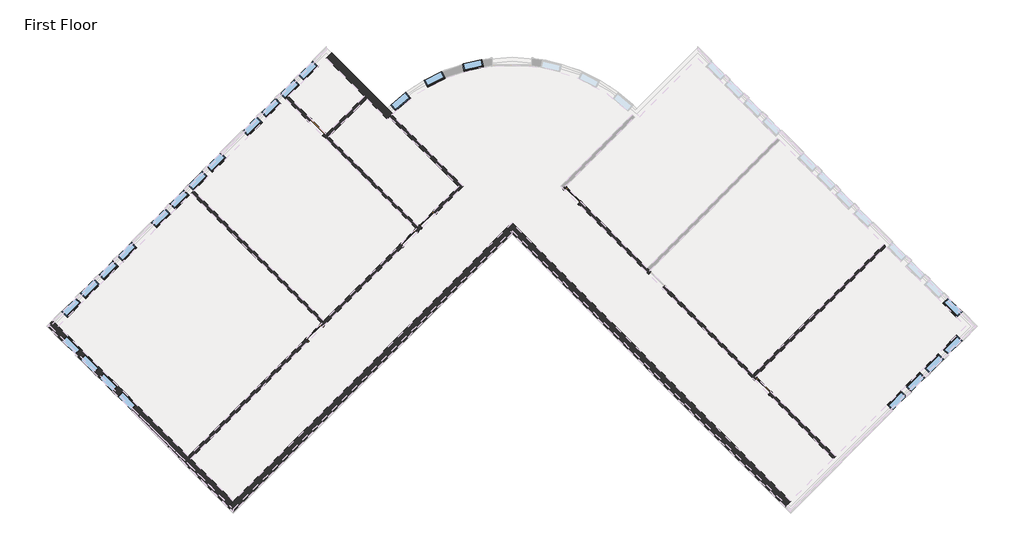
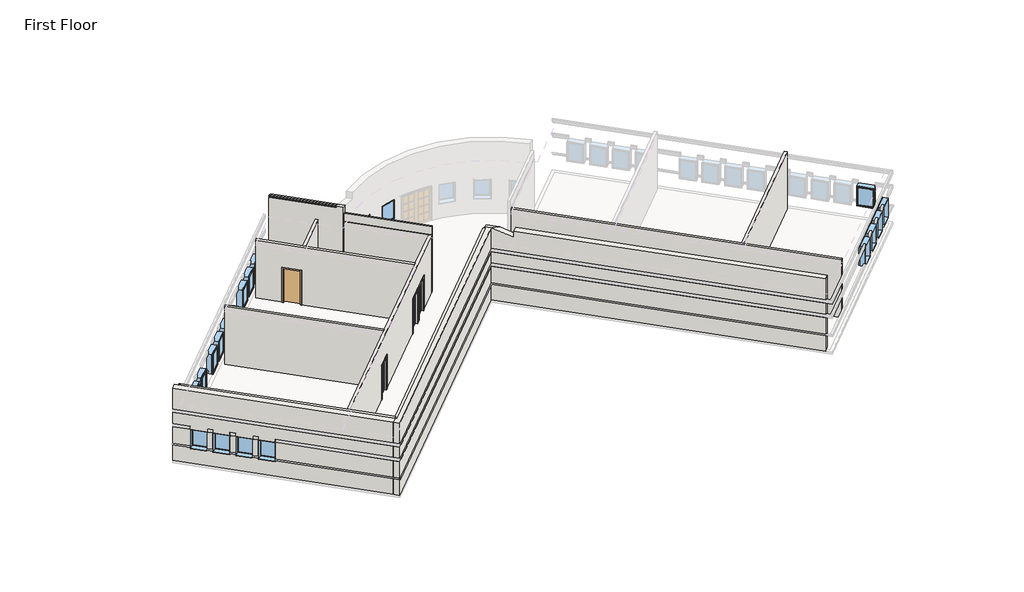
# One storey, part 1 of 4: 24 windows, 11 walls, 6 doors.
"""IFC4 building model written with IfcOpenShell, lengths in millimetres."""

from ifc_helpers import new_model, si_unit, frame, origin, origin_with_axes, place, context, project, spatial, polyline, circle_curve, ellipse_curve, outline, extrude, faceted_brep, transform, mapped, element, save
from ifc_brep_helpers import plane_surface, cylinder_surface, revolved_surface, advanced_brep
from components import door_f9494b7c, door_b81abb0e, door_5f5b55da, window_15c49d37, window_0e2fc6ce

model = new_model("IFC4")

# Units and contexts
model_context = context("Model", 3, world=origin())
ifc_project = project(units=[si_unit("LENGTHUNIT", "METRE", prefix="MILLI")], contexts=[model_context])

# Site, building, storey
site = spatial("IfcSite", under=ifc_project)
building = spatial("IfcBuilding", under=site)
storey = spatial("IfcBuildingStorey", under=building, Name="First Floor", Elevation=0.0)

# Doors
placement = place(None, origin())
door_shape = door_f9494b7c(model_context)
element("IfcDoor", 1, ObjectType="Single-Flush : 36\" x 84\"", at=placement, inside=storey, context=model_context, shape_type="MappedRepresentation", body=[
    mapped(door_shape, transform((-11920.1265343, 7875.9588464, 0.0), x_axis=(0.7071067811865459, -0.7071067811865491, 0.0), y_axis=(0.7071067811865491, 0.7071067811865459, 0.0), z_axis=(0.0, 0.0, 1.0))),
])
door_2_shape = door_b81abb0e(model_context)
element("IfcDoor", 2, ObjectType="Single-Glass 1 : 36\" x 84\"", at=placement, inside=storey, context=model_context, shape_type="MappedRepresentation", body=[
    mapped(door_2_shape, transform((-12027.7718255, -1647.4849877, 0.0), x_axis=(0.7071067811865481, 0.7071067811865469, 0.0), y_axis=(-0.7071067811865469, 0.7071067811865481, 0.0), z_axis=(0.0, 0.0, 1.0))),
])
element("IfcDoor", 3, ObjectType="Single-Glass 1 : 36\" x 84\"", at=placement, inside=storey, context=model_context, shape_type="MappedRepresentation", body=[
    mapped(door_2_shape, transform((-7643.2795567, 2737.0072811, 0.0), x_axis=(0.7071067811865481, 0.7071067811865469, 0.0), y_axis=(-0.7071067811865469, 0.7071067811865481, 0.0), z_axis=(0.0, 0.0, 1.0))),
])
door_3_shape = door_5f5b55da(model_context)
element("IfcDoor", 4, ObjectType="Single-Glass 1 : 36\" x 84\"", at=placement, inside=storey, context=model_context, shape_type="MappedRepresentation", body=[
    mapped(door_3_shape, transform((-6781.1749691, 3599.1118687, 0.0), x_axis=(-0.7071067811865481, -0.7071067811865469, 0.0), y_axis=(0.7071067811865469, -0.7071067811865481, 0.0), z_axis=(0.0, 0.0, 1.0))),
])
element("IfcDoor", 5, ObjectType="Single-Glass 1 : 36\" x 84\"", at=placement, inside=storey, context=model_context, shape_type="MappedRepresentation", body=[
    mapped(door_3_shape, transform((-66.4240191, 4710.6541283, 0.0), x_axis=(-0.7071067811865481, 0.7071067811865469, 0.0), y_axis=(-0.7071067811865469, -0.7071067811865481, 0.0), z_axis=(0.0, 0.0, 1.0))),
])
element("IfcDoor", 6, ObjectType="Single-Glass 1 : 36\" x 84\"", at=placement, inside=storey, context=model_context, shape_type="MappedRepresentation", body=[
    mapped(door_3_shape, transform((8770.3835686, -4126.1534594, 0.0), x_axis=(-0.7071067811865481, 0.7071067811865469, 0.0), y_axis=(-0.7071067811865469, -0.7071067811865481, 0.0), z_axis=(0.0, 0.0, 1.0))),
])

# Walls
element("IfcWall", 7, ObjectType="Exterior - Split Face and CMU on Mtl. Stud", at=placement, inside=storey, context=model_context, shape_type="Brep", body=[
    faceted_brep([(10063.54045, -9480.6311716, 0.0), (-2868.0283643, 3450.9376427, 0.0), (-2868.0283643, 3450.9376427, 4454.525), (-2369.6241496, 2952.533428, 4454.525), (-1756.7216693, 2339.6309478, 4165.6), (-1756.7216693, 2339.6309478, 4572.0), (10063.54045, -9480.6311716, 4572.0), (-3117.2304717, 3201.7355354, 4572.0), (-3117.2304717, 3201.7355354, 0.0), (-2868.0283643, 2952.533428, 0.0), (9814.3383427, -9729.833279, 0.0), (9814.3383427, -9729.833279, 1016.0), (-2868.0283643, 2952.533428, 1016.0), (-2933.1352212, 3017.6402849, 1016.0), (-2933.1352212, 3017.6402849, 1085.85), (-2868.0283643, 2952.533428, 1085.85), (9814.3383427, -9729.833279, 1085.85), (9814.3383427, -9729.833279, 2133.6), (-2868.0283643, 2952.533428, 2133.6), (-2933.1352212, 3017.6402849, 2133.6), (-2933.1352212, 3017.6402849, 2336.8), (-2868.0283643, 2952.533428, 2336.8), (9814.3383427, -9729.833279, 2336.8), (9814.3383427, -9729.833279, 3048.0), (-2868.0283643, 2952.533428, 3048.0), (-2933.1352212, 3017.6402849, 3048.0), (-2933.1352212, 3017.6402849, 3251.2), (-2868.0283643, 2952.533428, 3251.2), (9814.3383427, -9729.833279, 3251.2), (9814.3383427, -9729.833279, 4572.0), (-2005.9237767, 2090.4288404, 4572.0), (-2005.9237767, 2090.4288404, 4165.6), (-2868.0283643, 2952.533428, 4572.0), (-3052.1236148, 3266.8423923, 0.0), (9879.4451996, -9664.7264221, 3251.2), (9879.4451996, -9664.7264221, 3048.0), (9879.4451996, -9664.7264221, 2336.8), (9879.4451996, -9664.7264221, 2133.6), (9879.4451996, -9664.7264221, 1085.85), (9879.4451996, -9664.7264221, 1016.0), (9879.4451996, -9664.7264221, 0.0), (-2868.0283643, 3082.7471418, 1085.85), (-2868.0283643, 3082.7471418, 1016.0), (-2868.0283643, 3082.7471418, 2133.6), (-2868.0283643, 3082.7471418, 2336.8), (-2868.0283643, 3082.7471418, 3048.0), (-2868.0283643, 3082.7471418, 3251.2)], [[[0, 1, 2, 3, 4, 5, 6]], [[7, 8, 9, 10, 11, 12, 13, 14, 15, 16, 17, 18, 19, 20, 21, 22, 23, 24, 25, 26, 27, 28, 29, 30, 31, 32]], [[2, 1, 33, 8, 7]], [[0, 6, 29, 28, 34, 35, 23, 22, 36, 37, 17, 16, 38, 39, 11, 10, 40]], [[29, 6, 5, 30]], [[30, 5, 4, 31]], [[31, 4, 3, 32]], [[2, 7, 32, 3]], [[1, 0, 40, 33]], [[40, 10, 9, 8, 33]], [[14, 41, 38, 16, 15]], [[39, 42, 13, 12, 11]], [[41, 42, 39, 38]], [[42, 41, 14, 13]], [[37, 43, 19, 18, 17]], [[20, 44, 36, 22, 21]], [[44, 43, 37, 36]], [[43, 44, 20, 19]], [[35, 45, 25, 24, 23]], [[26, 46, 34, 28, 27]], [[46, 45, 35, 34]], [[45, 46, 26, 25]]]),
])
element("IfcWall", 8, ObjectType="Exterior - Split Face and CMU on Mtl. Stud", at=placement, inside=storey, context=model_context, shape_type="Brep", body=[
    faceted_brep([(-3117.2304717, 3201.7355354, 0.0), (-15799.5971786, -9480.6311716, 0.0), (-16048.799286, -9729.833279, 0.0), (-16048.799286, -9729.833279, 1016.0), (-15983.6924291, -9664.7264221, 1016.0), (-15983.6924291, -9664.7264221, 1085.85), (-16048.799286, -9729.833279, 1085.85), (-16048.799286, -9729.833279, 2133.6), (-15983.6924291, -9664.7264221, 2133.6), (-15983.6924291, -9664.7264221, 2336.8), (-16048.799286, -9729.833279, 2336.8), (-16048.799286, -9729.833279, 3048.0), (-15983.6924291, -9664.7264221, 3048.0), (-15983.6924291, -9664.7264221, 3251.2), (-16048.799286, -9729.833279, 3251.2), (-16048.799286, -9729.833279, 4572.0), (-15799.5971786, -9480.6311716, 4572.0), (-3135.1909839, 3183.7750231, 4572.0), (-3117.2304717, 3201.7355354, 4572.0), (-15799.5971786, -9979.0353863, 0.0), (-2868.0283643, 2952.533428, 0.0), (-2868.0283643, 2952.533428, 1016.0), (-15799.5971786, -9979.0353863, 1016.0), (-15799.5971786, -9979.0353863, 1085.85), (-2868.0283643, 2952.533428, 1085.85), (-2868.0283643, 2952.533428, 2133.6), (-15799.5971786, -9979.0353863, 2133.6), (-15799.5971786, -9979.0353863, 2336.8), (-2868.0283643, 2952.533428, 2336.8), (-2868.0283643, 2952.533428, 3048.0), (-15799.5971786, -9979.0353863, 3048.0), (-15799.5971786, -9979.0353863, 4572.0), (-15799.5971786, -9979.0353863, 3251.2), (-2868.0283643, 2952.533428, 3251.2), (-2868.0283643, 2952.533428, 4572.0), (-2885.9888765, 2934.5729158, 4572.0), (-15864.7040355, -9913.9285294, 0.0), (-2933.1352212, 3017.6402849, 3251.2), (-2933.1352212, 3017.6402849, 3048.0), (-2933.1352212, 3017.6402849, 2336.8), (-2933.1352212, 3017.6402849, 2133.6), (-2933.1352212, 3017.6402849, 1085.85), (-2933.1352212, 3017.6402849, 1016.0), (-2933.1352212, 3017.6402849, 0.0), (-15799.5971786, -9848.8216726, 1085.85), (-15799.5971786, -9848.8216726, 1016.0), (-15799.5971786, -9848.8216726, 2133.6), (-15799.5971786, -9848.8216726, 2336.8), (-15799.5971786, -9848.8216726, 3048.0), (-15799.5971786, -9848.8216726, 3251.2)], [[[0, 1, 2, 3, 4, 5, 6, 7, 8, 9, 10, 11, 12, 13, 14, 15, 16, 17, 18]], [[19, 20, 21, 22]], [[23, 24, 25, 26]], [[27, 28, 29, 30]], [[31, 32, 33, 34, 35]], [[2, 36, 19, 22, 3]], [[6, 23, 26, 7]], [[10, 27, 30, 11]], [[15, 14, 32, 31]], [[0, 18, 34, 33, 37, 38, 29, 28, 39, 40, 25, 24, 41, 42, 21, 20, 43]], [[2, 1, 0, 43, 36]], [[43, 20, 19, 36]], [[5, 44, 41, 24, 23, 6]], [[42, 45, 4, 3, 22, 21]], [[44, 45, 42, 41]], [[45, 44, 5, 4]], [[40, 46, 8, 7, 26, 25]], [[9, 47, 39, 28, 27, 10]], [[47, 46, 40, 39]], [[46, 47, 9, 8]], [[38, 48, 12, 11, 30, 29]], [[13, 49, 37, 33, 32, 14]], [[49, 48, 38, 37]], [[48, 49, 13, 12]], [[15, 31, 35, 34, 18, 17, 16]]]),
    faceted_brep([(-15799.5971786, -9480.6311716, 4689.475), (-3366.432579, 2952.533428, 4689.475), (-3260.200231, 3058.765776, 4639.3965909), (-15799.5971786, -9480.6311716, 4639.3965909), (-15874.9878772, -9556.0218702, 4653.9354839), (-3215.6511819, 2952.533428, 4653.9354839), (-15799.5971786, -9631.4125687, 4653.9354839)], [[[0, 1, 2, 3, 4]], [[2, 1, 5]], [[1, 0, 6, 5]], [[0, 4, 6]], [[6, 3, 2, 5]], [[3, 6, 4]]]),
])
element("IfcWall", 9, ObjectType="Exterior - Split Face and CMU on Mtl. Stud", at=placement, inside=storey, context=model_context, shape_type="Brep", body=[
    faceted_brep([(-23922.2388402, -1357.9895101, 4689.475), (-15799.5971786, -9480.6311716, 4689.475), (-15799.5971786, -9480.6311716, 4639.3965909), (-23922.2388402, -1357.9895101, 4639.3965909), (-23997.6295387, -1282.5988115, 4653.9354839), (-15874.9878772, -9556.0218702, 4653.9354839), (-24073.0202373, -1357.9895101, 4653.9354839)], [[[0, 1, 2, 3, 4]], [[2, 1, 5]], [[1, 0, 6, 5]], [[0, 4, 6]], [[6, 3, 2, 5]], [[3, 6, 4]]]),
    faceted_brep([(-15799.5971786, -9480.6311716, 0.0), (-17775.2535253, -7504.974825, 0.0), (-17885.2616628, -7394.9666875, 0.0), (-23922.2388402, -1357.9895101, 0.0), (-24171.4409475, -1108.7874027, 0.0), (-24171.4409475, -1108.7874027, 1016.0), (-24106.3340906, -1173.8942596, 1016.0), (-24106.3340906, -1173.8942596, 1085.85), (-24171.4409475, -1108.7874027, 1085.85), (-24171.4409475, -1108.7874027, 2133.6), (-24106.3340906, -1173.8942596, 2133.6), (-24106.3340906, -1173.8942596, 2336.8), (-24171.4409475, -1108.7874027, 2336.8), (-24171.4409475, -1108.7874027, 3048.0), (-24106.3340906, -1173.8942596, 3048.0), (-24106.3340906, -1173.8942596, 3251.2), (-24171.4409475, -1108.7874027, 3251.2), (-24171.4409475, -1108.7874027, 4572.0), (-23922.2388402, -1357.9895101, 4572.0), (-15799.5971786, -9480.6311716, 4572.0), (-20921.7107637, -4358.5175865, 2133.6), (-20921.7107637, -4358.5175865, 914.4), (-20275.132323, -5005.0960273, 914.4), (-20275.132323, -5005.0960273, 2133.6), (-21783.8153513, -3496.4129989, 2133.6), (-21783.8153513, -3496.4129989, 914.4), (-21137.2369106, -4142.9914396, 914.4), (-21137.2369106, -4142.9914396, 2133.6), (-22645.9199389, -2634.3084113, 2133.6), (-22645.9199389, -2634.3084113, 914.4), (-21999.3414982, -3280.886852, 914.4), (-21999.3414982, -3280.886852, 2133.6), (-23508.0245266, -1772.2038237, 2133.6), (-23508.0245266, -1772.2038237, 914.4), (-22861.4460859, -2418.7822644, 914.4), (-22861.4460859, -2418.7822644, 2133.6), (-24420.6430549, -1357.9895101, 0.0), (-16048.799286, -9729.833279, 0.0), (-16048.799286, -9729.833279, 1016.0), (-20524.3344303, -5254.2981346, 1016.0), (-20524.3344303, -5254.2981346, 914.4), (-21170.9128711, -4607.7196939, 914.4), (-21170.9128711, -4607.7196939, 1016.0), (-21386.439018, -4392.193547, 1016.0), (-21386.439018, -4392.193547, 914.4), (-22033.0174587, -3745.6151063, 914.4), (-22033.0174587, -3745.6151063, 1016.0), (-22248.5436056, -3530.0889594, 1016.0), (-22248.5436056, -3530.0889594, 914.4), (-22895.1220463, -2883.5105187, 914.4), (-22895.1220463, -2883.5105187, 1016.0), (-23110.6481932, -2667.9843718, 1016.0), (-23110.6481932, -2667.9843718, 914.4), (-23757.2266339, -2021.405931, 914.4), (-23757.2266339, -2021.405931, 1016.0), (-24420.6430549, -1357.9895101, 1016.0), (-21170.9128711, -4607.7196939, 2133.6), (-20524.3344303, -5254.2981346, 2133.6), (-20524.3344303, -5254.2981346, 2336.8), (-16048.799286, -9729.833279, 2336.8), (-16048.799286, -9729.833279, 3048.0), (-24420.6430549, -1357.9895101, 3048.0), (-24420.6430549, -1357.9895101, 2336.8), (-23757.2266339, -2021.405931, 2336.8), (-23757.2266339, -2021.405931, 2133.6), (-23110.6481932, -2667.9843718, 2133.6), (-23110.6481932, -2667.9843718, 2336.8), (-22895.1220463, -2883.5105187, 2336.8), (-22895.1220463, -2883.5105187, 2133.6), (-22248.5436056, -3530.0889594, 2133.6), (-22248.5436056, -3530.0889594, 2336.8), (-22033.0174587, -3745.6151063, 2336.8), (-22033.0174587, -3745.6151063, 2133.6), (-21386.439018, -4392.193547, 2133.6), (-21386.439018, -4392.193547, 2336.8), (-21170.9128711, -4607.7196939, 2336.8), (-20524.3344303, -5254.2981346, 1085.85), (-16048.799286, -9729.833279, 1085.85), (-16048.799286, -9729.833279, 2133.6), (-21170.9128711, -4607.7196939, 1085.85), (-21386.439018, -4392.193547, 1085.85), (-22033.0174587, -3745.6151063, 1085.85), (-22248.5436056, -3530.0889594, 1085.85), (-22895.1220463, -2883.5105187, 1085.85), (-23110.6481932, -2667.9843718, 1085.85), (-23757.2266339, -2021.405931, 1085.85), (-24420.6430549, -1357.9895101, 2133.6), (-24420.6430549, -1357.9895101, 1085.85), (-24420.6430549, -1357.9895101, 4572.0), (-24420.6430549, -1357.9895101, 3251.2), (-16048.799286, -9729.833279, 3251.2), (-16048.799286, -9729.833279, 4572.0), (-15983.6924291, -9664.7264221, 3251.2), (-15983.6924291, -9664.7264221, 3048.0), (-15983.6924291, -9664.7264221, 2336.8), (-15983.6924291, -9664.7264221, 2133.6), (-15983.6924291, -9664.7264221, 1085.85), (-15983.6924291, -9664.7264221, 1016.0), (-21105.8060142, -4542.612837, 2133.6), (-21105.8060142, -4542.612837, 1085.85), (-21105.8060142, -4542.612837, 1016.0), (-20459.2275735, -5189.1912777, 1016.0), (-20459.2275735, -5189.1912777, 1085.85), (-20459.2275735, -5189.1912777, 2133.6), (-21967.9106018, -3680.5082494, 2133.6), (-21967.9106018, -3680.5082494, 1085.85), (-21967.9106018, -3680.5082494, 1016.0), (-21321.3321611, -4327.0866901, 1016.0), (-21321.3321611, -4327.0866901, 1085.85), (-21321.3321611, -4327.0866901, 2133.6), (-22830.0151894, -2818.4036618, 2133.6), (-22830.0151894, -2818.4036618, 1085.85), (-22830.0151894, -2818.4036618, 1016.0), (-22183.4367487, -3464.9821025, 1016.0), (-22183.4367487, -3464.9821025, 1085.85), (-22183.4367487, -3464.9821025, 2133.6), (-23692.119777, -1956.2990742, 2133.6), (-23692.119777, -1956.2990742, 1085.85), (-23692.119777, -1956.2990742, 1016.0), (-23045.5413363, -2602.8775149, 1016.0), (-23045.5413363, -2602.8775149, 1085.85), (-23045.5413363, -2602.8775149, 2133.6), (-24290.4293411, -1357.9895101, 1085.85), (-24290.4293411, -1357.9895101, 1016.0), (-20459.2275735, -5189.1912777, 2133.6), (-20459.2275735, -5189.1912777, 2336.8), (-21105.8060142, -4542.612837, 2133.6), (-21105.8060142, -4542.612837, 2336.8), (-21321.3321611, -4327.0866901, 2336.8), (-21321.3321611, -4327.0866901, 2133.6), (-21967.9106018, -3680.5082494, 2133.6), (-21967.9106018, -3680.5082494, 2336.8), (-22183.4367487, -3464.9821025, 2336.8), (-22183.4367487, -3464.9821025, 2133.6), (-22830.0151894, -2818.4036618, 2133.6), (-22830.0151894, -2818.4036618, 2336.8), (-23045.5413363, -2602.8775149, 2336.8), (-23045.5413363, -2602.8775149, 2133.6), (-23692.119777, -1956.2990742, 2133.6), (-23692.119777, -1956.2990742, 2336.8), (-24290.4293411, -1357.9895101, 2133.6), (-24290.4293411, -1357.9895101, 2336.8), (-24290.4293411, -1357.9895101, 3048.0), (-24290.4293411, -1357.9895101, 3251.2)], [[[0, 1, 2, 3, 4, 5, 6, 7, 8, 9, 10, 11, 12, 13, 14, 15, 16, 17, 18, 19], [20, 21, 22, 23], [24, 25, 26, 27], [28, 29, 30, 31], [32, 33, 34, 35]], [[36, 37, 38, 39, 40, 41, 42, 43, 44, 45, 46, 47, 48, 49, 50, 51, 52, 53, 54, 55]], [[56, 57, 58, 59, 60, 61, 62, 63, 64, 65, 66, 67, 68, 69, 70, 71, 72, 73, 74, 75]], [[57, 76, 77, 78]], [[79, 56, 73, 80]], [[81, 72, 69, 82]], [[83, 68, 65, 84]], [[85, 64, 86, 87]], [[88, 89, 90, 91]], [[4, 36, 55, 5]], [[8, 87, 86, 9]], [[12, 62, 61, 13]], [[17, 16, 89, 88]], [[37, 0, 19, 91, 90, 92, 93, 60, 59, 94, 95, 78, 77, 96, 97, 38]], [[4, 3, 2, 1, 0, 37, 36]], [[21, 20, 98, 56, 79, 99, 100, 42, 41]], [[22, 21, 41, 40]], [[23, 22, 40, 39, 101, 102, 76, 57, 103]], [[20, 23, 103, 57, 56, 98]], [[25, 24, 104, 72, 81, 105, 106, 46, 45]], [[26, 25, 45, 44]], [[27, 26, 44, 43, 107, 108, 80, 73, 109]], [[24, 27, 109, 73, 72, 104]], [[29, 28, 110, 68, 83, 111, 112, 50, 49]], [[30, 29, 49, 48]], [[31, 30, 48, 47, 113, 114, 82, 69, 115]], [[28, 31, 115, 69, 68, 110]], [[33, 32, 116, 64, 85, 117, 118, 54, 53]], [[34, 33, 53, 52]], [[35, 34, 52, 51, 119, 120, 84, 65, 121]], [[32, 35, 121, 65, 64, 116]], [[102, 96, 77, 76]], [[97, 101, 39, 38]], [[96, 102, 101, 97]], [[108, 99, 79, 80]], [[100, 107, 43, 42]], [[99, 108, 107, 100]], [[114, 105, 81, 82]], [[106, 113, 47, 46]], [[105, 114, 113, 106]], [[120, 111, 83, 84]], [[112, 119, 51, 50]], [[111, 120, 119, 112]], [[122, 117, 85, 87, 8, 7]], [[118, 123, 6, 5, 55, 54]], [[117, 122, 123, 118]], [[123, 122, 7, 6]], [[124, 57, 78, 95]], [[58, 125, 94, 59]], [[57, 124, 125, 58]], [[125, 124, 95, 94]], [[126, 56, 75, 127]], [[128, 74, 73, 129]], [[56, 126, 129, 73]], [[126, 127, 128, 129]], [[127, 75, 74, 128]], [[130, 72, 71, 131]], [[132, 70, 69, 133]], [[72, 130, 133, 69]], [[130, 131, 132, 133]], [[131, 71, 70, 132]], [[134, 68, 67, 135]], [[136, 66, 65, 137]], [[68, 134, 137, 65]], [[134, 135, 136, 137]], [[135, 67, 66, 136]], [[138, 64, 63, 139]], [[64, 138, 140, 10, 9, 86]], [[138, 139, 141, 140]], [[139, 63, 62, 12, 11, 141]], [[140, 141, 11, 10]], [[93, 142, 14, 13, 61, 60]], [[15, 143, 92, 90, 89, 16]], [[143, 142, 93, 92]], [[142, 143, 15, 14]], [[19, 18, 17, 88, 91]]]),
])
element("IfcWall", 10, ObjectType="Exterior - Split Face and CMU on Mtl. Stud", at=placement, inside=storey, context=model_context, shape_type="AdvancedBrep", body=[
    advanced_brep(
    [(-8658.0122729, 8244.1131219, 0.0), (-8658.0122729, 8244.1131219, 4689.475), (-11489.0742405, 11075.1750895, 4689.475), (-11489.0742405, 11075.1750895, 4639.3965909), (-8911.6883314, 8497.7891804, 4639.3965909), (-8911.6883314, 8497.7891804, 4572.0), (-11489.0742405, 11075.1750895, 4572.0), (-11489.0742405, 11075.1750895, 0.0), (-9728.9440408, 9315.0448898, 0.0), (-9618.9359033, 9205.0367523, 0.0), (-8413.2817722, 8497.7868359, 4572.0), (-8413.2817722, 8497.7868359, 0.0), (-8662.486224, 8746.9912878, 0.0), (-11239.8721332, 11324.3771969, 0.0), (-11239.8721332, 11324.3771969, 1016.0), (-8662.486224, 8746.9912878, 1016.0), (-8597.3787742, 8681.8838379, 1016.0), (-8597.3787742, 8681.8838379, 1085.85), (-8662.486224, 8746.9912878, 1085.85), (-11239.8721332, 11324.3771969, 1085.85), (-11239.8721332, 11324.3771969, 2133.6), (-8662.486224, 8746.9912878, 2133.6), (-8597.3787742, 8681.8838379, 2133.6), (-8597.3787742, 8681.8838379, 2336.8), (-8662.486224, 8746.9912878, 2336.8), (-11239.8721332, 11324.3771969, 2336.8), (-11239.8721332, 11324.3771969, 3048.0), (-8662.486224, 8746.9912878, 3048.0), (-8597.3787742, 8681.8838379, 3048.0), (-8597.3787742, 8681.8838379, 3251.2), (-8662.486224, 8746.9912878, 3251.2), (-11239.8721332, 11324.3771969, 3251.2), (-11239.8721332, 11324.3771969, 4572.0), (-8662.486224, 8746.9912878, 4572.0), (-8557.7157352, 8350.8336041, 0.0), (-8449.0111375, 8462.1452813, 0.0), (-11304.9789901, 11259.27034, 3251.2), (-11304.9789901, 11259.27034, 3048.0), (-11304.9789901, 11259.27034, 2336.8), (-11304.9789901, 11259.27034, 2133.6), (-11304.9789901, 11259.27034, 1085.85), (-11304.9789901, 11259.27034, 1016.0), (-11413.683542, 11150.5657881, 4653.9354839), (-8836.2976328, 8573.179879, 4653.9354839), (-8662.3967205, 8616.6880705, 1085.85), (-8662.3967205, 8616.6880705, 1016.0), (-8662.3967205, 8616.6880705, 2336.8), (-8662.3967205, 8616.6880705, 2133.6), (-8662.3967205, 8616.6880705, 3251.2), (-8662.3967205, 8616.6880705, 3048.0)],
    [
        (0, 1),
        (1, 2),
        (2, 3),
        (3, 4),
        (4, 5),
        (5, 6),
        (6, 7),
        (7, 8),
        (8, 9),
        (9, 0),
        (10, 11),
        (11, 12),
        (12, 13),
        (13, 14),
        (14, 15),
        (15, 16),
        (16, 17),
        (17, 18),
        (18, 19),
        (19, 20),
        (20, 21),
        (21, 22),
        (22, 23),
        (23, 24),
        (24, 25),
        (25, 26),
        (26, 27),
        (27, 28),
        (28, 29),
        (29, 30),
        (30, 31),
        (31, 32),
        (32, 33),
        (33, 10),
        (0, 34, circle_curve(frame((-2868.0283643, 2903.1420194, 0.0), z_axis=(0.0, 0.0, -1.0), x_axis=(1.0, 0.0, 0.0)), 7877.175)),
        (34, 35, circle_curve(frame((-2868.0283643, 2903.1420194, 0.0), z_axis=(0.0, 0.0, -1.0), x_axis=(1.0, 0.0, 0.0)), 7877.175)),
        (35, 11, circle_curve(frame((-2868.0283643, 2903.1420194, 0.0), z_axis=(0.0, 0.0, -1.0), x_axis=(1.0, 0.0, 0.0)), 7877.175)),
        (10, 1, ellipse_curve(frame((-2868.0283643, 2903.1420194, 4583.6416667), z_axis=(0.2236067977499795, 0.22360679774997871, 0.9486832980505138), x_axis=(0.6708203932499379, 0.6708203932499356, -0.31622776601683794)), 8303.2715092, 7877.175)),
        (13, 7),
        (6, 32),
        (31, 36),
        (36, 37),
        (37, 26),
        (25, 38),
        (38, 39),
        (39, 20),
        (19, 40),
        (40, 41),
        (41, 14),
        (2, 42),
        (42, 3),
        (33, 43),
        (43, 42),
        (44, 45),
        (45, 41),
        (40, 44),
        (17, 44, circle_curve(frame((-2868.0283643, 2903.1420194, 1085.85), z_axis=(0.0, 0.0, 1.0), x_axis=(-0.7040995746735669, 0.7101012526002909, 0.0)), 8137.525)),
        (45, 16, circle_curve(frame((-2868.0283643, 2903.1420194, 1016.0), z_axis=(0.0, 0.0, -1.0), x_axis=(-0.7040995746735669, 0.7101012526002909, 0.0)), 8137.525)),
        (46, 47),
        (47, 39),
        (38, 46),
        (47, 22, circle_curve(frame((-2868.0283643, 2903.1420194, 2133.6), z_axis=(0.0, 0.0, -1.0), x_axis=(-0.7120553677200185, 0.70212331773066, 0.0)), 8137.525)),
        (46, 23, circle_curve(frame((-2868.0283643, 2903.1420194, 2336.8), z_axis=(0.0, 0.0, -1.0), x_axis=(-0.7120553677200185, 0.70212331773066, 0.0)), 8137.525)),
        (48, 49),
        (49, 37),
        (36, 48),
        (49, 28, circle_curve(frame((-2868.0283643, 2903.1420194, 3048.0), z_axis=(0.0, 0.0, -1.0), x_axis=(-0.7120553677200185, 0.70212331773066, 0.0)), 8137.525)),
        (48, 29, circle_curve(frame((-2868.0283643, 2903.1420194, 3251.2), z_axis=(0.0, 0.0, -1.0), x_axis=(-0.7120553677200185, 0.70212331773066, 0.0)), 8137.525)),
        (5, 33),
        (4, 43),
    ],
    [
        plane_surface(frame((-11738.2763479, 11324.3771969, 0.0), z_axis=(-0.7071067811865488, -0.7071067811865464, 0.0), x_axis=(0.7071067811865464, -0.7071067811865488, 0.0))),
        plane_surface(frame((-11489.0742405, 11573.5793042, 0.0), z_axis=(0.7071067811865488, 0.7071067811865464, 0.0), x_axis=(-0.7071067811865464, 0.7071067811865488, 0.0))),
        revolved_surface(polyline([(5009.146635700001, 2903.1420194, 0.0), (5009.146635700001, 2903.1420194, 7209.366666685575)]), (-2868.0283643, 2903.1420194, 0.0), (0.0, 0.0, -1.0)),
        plane_surface(frame((-24171.4409475, -1607.1916175, 0.0), z_axis=(-0.7071067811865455, 0.7071067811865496, 0.0), x_axis=(0.7071067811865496, 0.7071067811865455, 0.0))),
        plane_surface(frame((-1143.8191891, 2952.533428, 4165.6), z_axis=(0.2236067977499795, 0.22360679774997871, 0.9486832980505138), x_axis=(-0.7071067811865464, 0.7071067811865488, 0.0))),
        plane_surface(frame((2801.004414, 8621.5662063, 0.0), z_axis=(0.0, 0.0, -1.0), x_axis=(-0.707106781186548, -0.707106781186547, 0.0))),
        plane_surface(frame((-11489.0742405, 11443.3655905, 1016.0), z_axis=(0.7071067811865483, 0.7071067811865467, 0.0), x_axis=(0.7071067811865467, -0.7071067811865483, 0.0))),
        plane_surface(frame((-2868.0283643, 2903.1420194, 1085.85), z_axis=(0.0, 0.0, -1.0), x_axis=(-0.7040995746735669, 0.7101012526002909, 0.0))),
        plane_surface(frame((-2868.0283643, 2903.1420194, 1016.0), z_axis=(0.0, 0.0, 1.0), x_axis=(-0.7040995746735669, 0.7101012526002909, 0.0))),
        cylinder_surface(frame((-2868.0283643, 2903.1420194, 1016.0), z_axis=(0.0, 0.0, -1.0), x_axis=(-0.7040995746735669, 0.7101012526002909, 0.0)), 8137.525),
        plane_surface(frame((-11489.0742405, 11443.3655905, 2133.6), z_axis=(0.7071067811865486, 0.7071067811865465, 0.0), x_axis=(0.7071067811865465, -0.7071067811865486, 0.0))),
        plane_surface(frame((-2868.0283643, 2903.1420194, 2133.6), z_axis=(0.0, 0.0, 1.0), x_axis=(-0.7120553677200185, 0.70212331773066, 0.0))),
        cylinder_surface(frame((-2868.0283643, 2903.1420194, 2133.6), z_axis=(0.0, 0.0, -1.0), x_axis=(-0.7120553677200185, 0.70212331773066, 0.0)), 8137.525),
        plane_surface(frame((-2868.0283643, 2903.1420194, 2336.8), z_axis=(0.0, 0.0, -1.0), x_axis=(-0.7120553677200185, 0.70212331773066, 0.0))),
        plane_surface(frame((-11489.0742405, 11443.3655905, 3048.0), z_axis=(0.7071067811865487, 0.7071067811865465, 0.0), x_axis=(0.7071067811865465, -0.7071067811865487, 0.0))),
        plane_surface(frame((-2868.0283643, 2903.1420194, 3048.0), z_axis=(0.0, 0.0, 1.0), x_axis=(-0.7120553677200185, 0.70212331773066, 0.0))),
        cylinder_surface(frame((-2868.0283643, 2903.1420194, 3048.0), z_axis=(0.0, 0.0, -1.0), x_axis=(-0.7120553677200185, 0.70212331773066, 0.0)), 8137.525),
        plane_surface(frame((-2868.0283643, 2903.1420194, 3251.2), z_axis=(0.0, 0.0, -1.0), x_axis=(-0.7120553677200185, 0.70212331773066, 0.0))),
        plane_surface(frame((-24438.6035671, -1340.0289979, 4572.0), z_axis=(0.0, 0.0, 1.0), x_axis=(0.7071067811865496, 0.7071067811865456, 0.0))),
        plane_surface(frame((-8662.486224, 8746.9912878, 4185.7445793), z_axis=(-0.7071067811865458, 0.7071067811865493, 0.0), x_axis=(0.7071067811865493, 0.7071067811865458, 0.0))),
        plane_surface(frame((-11489.0742405, 11034.763937, 4635.5), z_axis=(0.0955394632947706, 0.09553946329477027, -0.9908301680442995), x_axis=(0.7071067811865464, -0.7071067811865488, 0.0))),
    ],
    [
        (0, [[1, 2, 3, 4, 5, 6, 7, 8, 9, 10]]),
        (1, [[11, 12, 13, 14, 15, 16, 17, 18, 19, 20, 21, 22, 23, 24, 25, 26, 27, 28, 29, 30, 31, 32, 33, 34]]),
        (2, [[35, 36, 37, -11, 38, -1]]),
        (3, [[39, -7, 40, -32, 41, 42, 43, -26, 44, 45, 46, -20, 47, 48, 49, -14]]),
        (3, [[-3, 50, 51]]),
        (4, [[-2, -38, -34, 52, 53, -50]]),
        (5, [[-37, -36, -35, -10, -9, -8, -39, -13, -12]]),
        (6, [[54, 55, -48, 56]]),
        (7, [[57, -56, -47, -19, -18]]),
        (8, [[-55, 58, -16, -15, -49]]),
        (9, [[-54, -57, -17, -58]]),
        (10, [[59, 60, -45, 61]]),
        (11, [[-60, 62, -22, -21, -46]]),
        (12, [[-59, 63, -23, -62]]),
        (13, [[-63, -61, -44, -25, -24]]),
        (14, [[64, 65, -42, 66]]),
        (15, [[-65, 67, -28, -27, -43]]),
        (16, [[-64, 68, -29, -67]]),
        (17, [[-68, -66, -41, -31, -30]]),
        (18, [[69, -33, -40, -6]]),
        (19, [[70, -52, -69, -5]]),
        (20, [[-70, -4, -51, -53]]),
    ],
),
])
element("IfcWall", 11, ObjectType="Interior - 6 1/8\" Partition (2-hr)", at=placement, inside=storey, context=model_context, shape_type="Brep", body=[
    faceted_brep([(-7264.9862676, 3005.2924327, 0.0), (-7049.4601207, 3220.8185796, 0.0), (-7049.4601207, 3220.8185796, 2133.6), (-6402.88168, 3867.3970204, 2133.6), (-6402.88168, 3867.3970204, 0.0), (-5238.5804157, 5031.6982846, 0.0), (-5238.5804157, 5031.6982846, 3657.6), (-17775.2535253, -7504.974825, 3657.6), (-17775.2535253, -7504.974825, 0.0), (-12296.0569771, -2025.7782768, 0.0), (-12296.0569771, -2025.7782768, 2133.6), (-11649.4785364, -1379.1998361, 2133.6), (-11649.4785364, -1379.1998361, 0.0), (-7911.5647083, 2358.713992, 0.0), (-7911.5647083, 2358.713992, 2133.6), (-7264.9862676, 3005.2924327, 2133.6), (-7159.4682582, 3330.8267171, 2133.6), (-7159.4682582, 3330.8267171, 0.0), (-7212.2272629, 3278.0677124, 0.0), (-7322.2354004, 3168.0595749, 0.0), (-7374.9944051, 3115.3005702, 0.0), (-7374.9944051, 3115.3005702, 2133.6), (-8021.5728458, 2468.7221295, 2133.6), (-8021.5728458, 2468.7221295, 0.0), (-11596.7195317, -1106.4245564, 0.0), (-11706.7276692, -1216.4326939, 0.0), (-11759.4866739, -1269.1916986, 0.0), (-11759.4866739, -1269.1916986, 2133.6), (-12406.0651146, -1915.7701393, 2133.6), (-12406.0651146, -1915.7701393, 0.0), (-17885.2616628, -7394.9666875, 0.0), (-17885.2616628, -7394.9666875, 3657.6), (-11706.7276692, -1216.4326939, 3657.6), (-11596.7195317, -1106.4245564, 3657.6), (-7322.2354004, 3168.0595749, 3657.6), (-7212.2272629, 3278.0677124, 3657.6), (-5348.5885532, 5141.7064221, 3657.6), (-5348.5885532, 5141.7064221, 0.0), (-6512.8898174, 3977.4051578, 0.0), (-6512.8898174, 3977.4051578, 2133.6)], [[[0, 1, 2, 3, 4, 5, 6, 7, 8, 9, 10, 11, 12, 13, 14, 15]], [[16, 17, 18, 19, 20, 21, 22, 23, 24, 25, 26, 27, 28, 29, 30, 31, 32, 33, 34, 35, 36, 37, 38, 39]], [[20, 19, 18, 17, 1, 0]], [[9, 8, 30, 29]], [[13, 12, 26, 25, 24, 23]], [[38, 37, 5, 4]], [[7, 6, 36, 35, 34, 33, 32, 31]], [[8, 7, 31, 30]], [[6, 5, 37, 36]], [[27, 26, 12, 11]], [[28, 27, 11, 10]], [[29, 28, 10, 9]], [[21, 20, 0, 15]], [[22, 21, 15, 14]], [[23, 22, 14, 13]], [[2, 1, 17, 16]], [[3, 2, 16, 39]], [[4, 3, 39, 38]]]),
])
element("IfcWall", 12, ObjectType="Interior - 6 1/8\" Partition (2-hr)", at=placement, inside=storey, context=model_context, shape_type="Brep", body=[
    faceted_brep([(-7212.2272629, 3278.0677124, 0.0), (-11379.066103, 7444.9065526, 0.0), (-11489.0742405, 7554.9146901, 0.0), (-11541.8332452, 7607.6736948, 0.0), (-11541.8332452, 7607.6736948, 2133.6), (-12188.411686, 8254.2521355, 2133.6), (-12188.411686, 8254.2521355, 0.0), (-13249.2044403, 9315.0448898, 0.0), (-13249.2044403, 9315.0448898, 3657.6), (-11489.0742405, 7554.9146901, 3657.6), (-11379.066103, 7444.9065526, 3657.6), (-7212.2272629, 3278.0677124, 3657.6), (-11651.8413827, 7497.6655573, 2133.6), (-11651.8413827, 7497.6655573, 0.0), (-7322.2354004, 3168.0595749, 0.0), (-7322.2354004, 3168.0595749, 3657.6), (-13359.2125777, 9205.0367523, 3657.6), (-13359.2125777, 9205.0367523, 0.0), (-12298.4198234, 8144.243998, 0.0), (-12298.4198234, 8144.243998, 2133.6)], [[[0, 1, 2, 3, 4, 5, 6, 7, 8, 9, 10, 11]], [[12, 13, 14, 15, 16, 17, 18, 19]], [[14, 13, 3, 2, 1, 0]], [[18, 17, 7, 6]], [[11, 10, 9, 8, 16, 15]], [[8, 7, 17, 16]], [[0, 11, 15, 14]], [[4, 3, 13, 12]], [[5, 4, 12, 19]], [[6, 5, 19, 18]]]),
])
element("IfcWall", 13, ObjectType="Interior - 6 1/8\" Partition (2-hr)", at=placement, inside=storey, context=model_context, shape_type="AdvancedBrep", body=[
    advanced_brep(
    [(-5128.5722782, 5141.7064221, 0.0), (-8449.0111375, 8462.1452813, 0.0), (-8449.0111375, 8462.1452813, 4165.6), (-5128.5722782, 5141.7064221, 4165.6), (-5238.5804157, 5031.6982846, 0.0), (-5238.5804157, 5031.6982846, 3657.6), (-5348.5885532, 5141.7064221, 3657.6), (-8557.7157352, 8350.8336041, 3657.6), (-8557.7157352, 8350.8336041, 0.0), (-5348.5885532, 5141.7064221, 0.0), (-5217.487872, 5052.7908283, 4165.6), (-5217.487872, 5052.7908283, 3657.6), (-8537.0415337, 8372.3444901, 3657.6), (-8537.0415337, 8372.3444901, 4165.6)],
    [
        (0, 1),
        (1, 2),
        (2, 3),
        (3, 0),
        (4, 5),
        (5, 6),
        (6, 7),
        (7, 8),
        (8, 9),
        (9, 4),
        (3, 10),
        (10, 11),
        (11, 5),
        (4, 0),
        (1, 8, circle_curve(frame((-2868.0283643, 2903.1420194, 0.0), z_axis=(0.0, 0.0, 1.0), x_axis=(1.0, 0.0, 0.0)), 7877.175)),
        (7, 12, circle_curve(frame((-2868.0283643, 2903.1420194, 3657.6), z_axis=(0.0, 0.0, -1.0), x_axis=(1.0, 0.0, 0.0)), 7877.175)),
        (12, 13),
        (13, 2, circle_curve(frame((-2868.0283643, 2903.1420194, 4165.6), z_axis=(0.0, 0.0, -1.0), x_axis=(1.0, 0.0, 0.0)), 7877.175)),
        (11, 12),
        (10, 13),
    ],
    [
        plane_surface(frame((-5183.576347, 5196.7104908, 0.0), z_axis=(0.7071067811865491, 0.7071067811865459, 0.0), x_axis=(-0.7071067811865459, 0.7071067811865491, 0.0))),
        plane_surface(frame((-5293.5844845, 5086.7023533, 0.0), z_axis=(-0.7071067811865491, -0.7071067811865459, 0.0), x_axis=(0.7071067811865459, -0.7071067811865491, 0.0))),
        plane_surface(frame((-17899.854579, -7629.5758786, 0.0), z_axis=(0.7071067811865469, -0.7071067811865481, 0.0), x_axis=(0.7071067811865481, 0.7071067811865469, 0.0))),
        cylinder_surface(frame((-2868.0283643, 2903.1420194, 0.0), z_axis=(0.0, 0.0, -1.0), x_axis=(1.0, 0.0, 0.0)), 7877.175),
        plane_surface(frame((-8573.2406241, 8586.374768, 3657.6), z_axis=(0.0, 0.0, 1.0), x_axis=(-0.707106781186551, -0.7071067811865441, 0.0))),
        plane_surface(frame((-9648.4972858, 9483.8002421, 4572.0), z_axis=(-0.7071067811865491, -0.7071067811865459, 0.0), x_axis=(0.7071067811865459, -0.7071067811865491, 0.0))),
        plane_surface(frame((-2868.0283643, 2903.1420194, 4165.6), z_axis=(0.0, 0.0, 1.0), x_axis=(1.0, 0.0, 0.0))),
        plane_surface(frame((2801.004414, 8621.5662063, 0.0), z_axis=(0.0, 0.0, -1.0), x_axis=(-0.707106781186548, -0.707106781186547, 0.0))),
    ],
    [
        (0, [[1, 2, 3, 4]]),
        (1, [[5, 6, 7, 8, 9, 10]]),
        (2, [[-4, 11, 12, 13, -5, 14]]),
        (3, [[-2, 15, -8, 16, 17, 18]]),
        (4, [[-16, -7, -6, -13, 19]]),
        (5, [[-19, -12, 20, -17]]),
        (6, [[-3, -18, -20, -11]]),
        (7, [[-1, -14, -10, -9, -15]]),
    ],
),
])
element("IfcWall", 14, ObjectType="Interior - 6 1/8\" Partition (2-hr)", at=placement, inside=storey, context=model_context, shape_type="SweptSolid", body=[
    extrude(outline(polyline([(-11489.0742405, 7554.9146901), (-9728.9440408, 9315.0448898), (-9618.9359033, 9205.0367523), (-11379.066103, 7444.9065526), (-11489.0742405, 7554.9146901)])), origin_with_axes(), (0.0, 0.0, 1.0), 3657.6),
])
element("IfcWall", 15, ObjectType="Interior - 6 1/8\" Partition (2-hr)", at=placement, inside=storey, context=model_context, shape_type="SweptSolid", body=[
    extrude(outline(polyline([(-17633.6967091, 4930.552621), (-11596.7195317, -1106.4245564), (-11706.7276692, -1216.4326939), (-17743.7048466, 4820.5444835), (-17633.6967091, 4930.552621)])), origin_with_axes(), (0.0, 0.0, 1.0), 3657.6),
])
element("IfcWall", 16, ObjectType="Interior - 6 1/8\" Partition (2-hr)", at=placement, inside=storey, context=model_context, shape_type="Brep", body=[
    faceted_brep([(8502.098417, -3747.8601703, 2133.6), (8502.098417, -3747.8601703, 0.0), (8449.3394123, -3695.1011656, 0.0), (8339.3312748, -3585.0930281, 0.0), (4225.2514393, 528.9868073, 0.0), (4225.2514393, 528.9868073, 2133.6), (3578.6729986, 1175.5652481, 2133.6), (3578.6729986, 1175.5652481, 0.0), (3525.9139939, 1228.3242528, 0.0), (3415.9058564, 1338.3323903, 0.0), (311.86927, 4442.3689766, 0.0), (311.86927, 4442.3689766, 2133.6), (-334.7091707, 5088.9474174, 2133.6), (-334.7091707, 5088.9474174, 0.0), (-387.4681754, 5141.7064221, 0.0), (-387.4681754, 5141.7064221, 3657.6), (3415.9058564, 1338.3323903, 3657.6), (3525.9139939, 1228.3242528, 3657.6), (8339.3312748, -3585.0930281, 3657.6), (8449.3394123, -3695.1011656, 3657.6), (12149.2049342, -7394.9666875, 3657.6), (12149.2049342, -7394.9666875, 0.0), (9148.6768577, -4394.438611, 0.0), (9148.6768577, -4394.438611, 2133.6), (4115.2433018, 418.9786699, 0.0), (8392.0902795, -3857.8683078, 0.0), (8392.0902795, -3857.8683078, 2133.6), (9038.6687202, -4504.4467485, 2133.6), (9038.6687202, -4504.4467485, 0.0), (12039.1967967, -7504.974825, 0.0), (12039.1967967, -7504.974825, 3657.6), (-497.4763129, 5031.6982846, 3657.6), (-497.4763129, 5031.6982846, 0.0), (-444.7173082, 4978.9392799, 0.0), (-444.7173082, 4978.9392799, 2133.6), (201.8611325, 4332.3608392, 2133.6), (201.8611325, 4332.3608392, 0.0), (3468.6648611, 1065.5571106, 0.0), (3468.6648611, 1065.5571106, 2133.6), (4115.2433018, 418.9786699, 2133.6)], [[[0, 1, 2, 3, 4, 5, 6, 7, 8, 9, 10, 11, 12, 13, 14, 15, 16, 17, 18, 19, 20, 21, 22, 23]], [[24, 25, 26, 27, 28, 29, 30, 31, 32, 33, 34, 35, 36, 37, 38, 39]], [[14, 13, 33, 32]], [[10, 9, 8, 7, 37, 36]], [[4, 3, 2, 1, 25, 24]], [[22, 21, 29, 28]], [[20, 19, 18, 17, 16, 15, 31, 30]], [[15, 14, 32, 31]], [[21, 20, 30, 29]], [[34, 33, 13, 12]], [[35, 34, 12, 11]], [[36, 35, 11, 10]], [[38, 37, 7, 6]], [[39, 38, 6, 5]], [[24, 39, 5, 4]], [[26, 25, 1, 0]], [[27, 26, 0, 23]], [[28, 27, 23, 22]]]),
])
element("IfcWall", 17, ObjectType="Interior - 6 1/8\" Partition (2-hr)", at=placement, inside=storey, context=model_context, shape_type="SweptSolid", body=[
    extrude(outline(polyline([(8339.3312748, -3585.0930281), (14376.3084522, 2451.8841493), (14486.3165897, 2341.8760118), (8449.3394123, -3695.1011656), (8339.3312748, -3585.0930281)])), origin_with_axes(), (0.0, 0.0, 1.0), 3657.6),
])

# Windows
window_shape = window_15c49d37(model_context)
element("IfcWindow", 18, ObjectType="Fixed : 36\" x 48\"", at=placement, inside=storey, context=model_context, shape_type="MappedRepresentation", body=[
    mapped(window_shape, transform((-23336.2771283, -522.8256908, 0.0), x_axis=(-0.7071067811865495, -0.7071067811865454, 0.0), y_axis=(0.7071067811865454, -0.7071067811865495, 0.0), z_axis=(0.0, 0.0, 1.0))),
])
element("IfcWindow", 19, ObjectType="Fixed : 36\" x 48\"", at=placement, inside=storey, context=model_context, shape_type="MappedRepresentation", body=[
    mapped(window_shape, transform((-8066.2237793, 9037.6928325, 0.0), x_axis=(-0.7659856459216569, -0.6428576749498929, 0.0), y_axis=(0.6428576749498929, -0.7659856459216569, 0.0), z_axis=(0.0, 0.0, 1.0))),
])
element("IfcWindow", 20, ObjectType="Fixed : 36\" x 48\"", at=placement, inside=storey, context=model_context, shape_type="MappedRepresentation", body=[
    mapped(window_shape, transform((-22474.1725406, 339.2788968, 0.0), x_axis=(-0.7071067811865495, -0.7071067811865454, 0.0), y_axis=(0.7071067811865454, -0.7071067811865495, 0.0), z_axis=(0.0, 0.0, 1.0))),
])
element("IfcWindow", 21, ObjectType="Fixed : 36\" x 48\"", at=placement, inside=storey, context=model_context, shape_type="MappedRepresentation", body=[
    mapped(window_shape, transform((-21612.067953, 1201.3834844, 0.0), x_axis=(-0.7071067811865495, -0.7071067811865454, 0.0), y_axis=(0.7071067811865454, -0.7071067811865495, 0.0), z_axis=(0.0, 0.0, 1.0))),
])
element("IfcWindow", 22, ObjectType="Fixed : 36\" x 48\"", at=placement, inside=storey, context=model_context, shape_type="MappedRepresentation", body=[
    mapped(window_shape, transform((-20749.9633654, 2063.488072, 0.0), x_axis=(-0.7071067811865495, -0.7071067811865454, 0.0), y_axis=(0.7071067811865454, -0.7071067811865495, 0.0), z_axis=(0.0, 0.0, 1.0))),
])
element("IfcWindow", 23, ObjectType="Fixed : 36\" x 48\"", at=placement, inside=storey, context=model_context, shape_type="MappedRepresentation", body=[
    mapped(window_shape, transform((-4714.6266038, 10728.998151, 0.0), x_axis=(-0.9743494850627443, -0.2250401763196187, 0.0), y_axis=(0.2250401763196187, -0.9743494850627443, 0.0), z_axis=(0.0, 0.0, 1.0))),
])
element("IfcWindow", 24, ObjectType="Fixed : 36\" x 48\"", at=placement, inside=storey, context=model_context, shape_type="MappedRepresentation", body=[
    mapped(window_shape, transform((-6490.5147795, 10081.6893252, 0.0), x_axis=(-0.8948935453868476, -0.4462796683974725, 0.0), y_axis=(0.4462796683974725, -0.8948935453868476, 0.0), z_axis=(0.0, 0.0, 1.0))),
])
element("IfcWindow", 25, ObjectType="Fixed : 36\" x 48\"", at=placement, inside=storey, context=model_context, shape_type="MappedRepresentation", body=[
    mapped(window_shape, transform((-19187.8702245, 3625.5812129, 0.0), x_axis=(-0.7071067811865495, -0.7071067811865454, 0.0), y_axis=(0.7071067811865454, -0.7071067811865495, 0.0), z_axis=(0.0, 0.0, 1.0))),
])
element("IfcWindow", 26, ObjectType="Fixed : 36\" x 48\"", at=placement, inside=storey, context=model_context, shape_type="MappedRepresentation", body=[
    mapped(window_shape, transform((-18325.7656368, 4487.6858006, 0.0), x_axis=(-0.7071067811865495, -0.7071067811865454, 0.0), y_axis=(0.7071067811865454, -0.7071067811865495, 0.0), z_axis=(0.0, 0.0, 1.0))),
])
element("IfcWindow", 27, ObjectType="Fixed : 36\" x 48\"", at=placement, inside=storey, context=model_context, shape_type="MappedRepresentation", body=[
    mapped(window_shape, transform((-17463.6610492, 5349.7903882, 0.0), x_axis=(-0.7071067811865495, -0.7071067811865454, 0.0), y_axis=(0.7071067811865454, -0.7071067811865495, 0.0), z_axis=(0.0, 0.0, 1.0))),
])
element("IfcWindow", 28, ObjectType="Fixed : 36\" x 48\"", at=placement, inside=storey, context=model_context, shape_type="MappedRepresentation", body=[
    mapped(window_shape, transform((-16601.5564616, 6211.8949758, 0.0), x_axis=(-0.7071067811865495, -0.7071067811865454, 0.0), y_axis=(0.7071067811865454, -0.7071067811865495, 0.0), z_axis=(0.0, 0.0, 1.0))),
])
element("IfcWindow", 29, ObjectType="Fixed : 36\" x 48\"", at=placement, inside=storey, context=model_context, shape_type="MappedRepresentation", body=[
    mapped(window_shape, transform((17600.2203996, -2193.1533294, 0.0), x_axis=(0.7071067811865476, 0.7071067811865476, 0.0), y_axis=(-0.7071067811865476, 0.7071067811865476, 0.0), z_axis=(0.0, 0.0, 1.0))),
])
element("IfcWindow", 30, ObjectType="Fixed : 36\" x 48\"", at=placement, inside=storey, context=model_context, shape_type="MappedRepresentation", body=[
    mapped(window_shape, transform((16738.115812, -3055.257917, 0.0), x_axis=(0.7071067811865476, 0.7071067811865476, 0.0), y_axis=(-0.7071067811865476, 0.7071067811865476, 0.0), z_axis=(0.0, 0.0, 1.0))),
])
element("IfcWindow", 31, ObjectType="Fixed : 36\" x 48\"", at=placement, inside=storey, context=model_context, shape_type="MappedRepresentation", body=[
    mapped(window_shape, transform((15876.0112244, -3917.3625046, 0.0), x_axis=(0.7071067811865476, 0.7071067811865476, 0.0), y_axis=(-0.7071067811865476, 0.7071067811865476, 0.0), z_axis=(0.0, 0.0, 1.0))),
])
element("IfcWindow", 32, ObjectType="Fixed : 36\" x 48\"", at=placement, inside=storey, context=model_context, shape_type="MappedRepresentation", body=[
    mapped(window_shape, transform((15013.9066368, -4779.4670922, 0.0), x_axis=(0.7071067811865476, 0.7071067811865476, 0.0), y_axis=(-0.7071067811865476, 0.7071067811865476, 0.0), z_axis=(0.0, 0.0, 1.0))),
])
window_2_shape = window_0e2fc6ce(model_context)
element("IfcWindow", 33, ObjectType="Fixed : 36\" x 48\"", at=placement, inside=storey, context=model_context, shape_type="MappedRepresentation", body=[
    mapped(window_2_shape, transform((-12290.3265348, 10523.1249026, 0.0), x_axis=(0.7071067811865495, 0.7071067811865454, 0.0), y_axis=(-0.7071067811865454, 0.7071067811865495, 0.0), z_axis=(0.0, 0.0, 1.0))),
])
element("IfcWindow", 34, ObjectType="Fixed : 36\" x 48\"", at=placement, inside=storey, context=model_context, shape_type="MappedRepresentation", body=[
    mapped(window_2_shape, transform((-13152.4311224, 9661.020315, 0.0), x_axis=(0.7071067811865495, 0.7071067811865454, 0.0), y_axis=(-0.7071067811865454, 0.7071067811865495, 0.0), z_axis=(0.0, 0.0, 1.0))),
])
element("IfcWindow", 35, ObjectType="Fixed : 36\" x 48\"", at=placement, inside=storey, context=model_context, shape_type="MappedRepresentation", body=[
    mapped(window_2_shape, transform((-14014.53571, 8798.9157274, 0.0), x_axis=(0.7071067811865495, 0.7071067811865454, 0.0), y_axis=(-0.7071067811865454, 0.7071067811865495, 0.0), z_axis=(0.0, 0.0, 1.0))),
])
element("IfcWindow", 36, ObjectType="Fixed : 36\" x 48\"", at=placement, inside=storey, context=model_context, shape_type="MappedRepresentation", body=[
    mapped(window_2_shape, transform((-14876.6402977, 7936.8111398, 0.0), x_axis=(0.7071067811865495, 0.7071067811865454, 0.0), y_axis=(-0.7071067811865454, 0.7071067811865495, 0.0), z_axis=(0.0, 0.0, 1.0))),
])
element("IfcWindow", 37, ObjectType="Fixed : 36\" x 48\"", at=placement, inside=storey, context=model_context, shape_type="MappedRepresentation", body=[
    mapped(window_2_shape, transform((-23336.2771283, -2193.1533294, 0.0), x_axis=(-0.7071067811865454, 0.7071067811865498, 0.0), y_axis=(-0.7071067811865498, -0.7071067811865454, 0.0), z_axis=(0.0, 0.0, 1.0))),
])
element("IfcWindow", 38, ObjectType="Fixed : 36\" x 48\"", at=placement, inside=storey, context=model_context, shape_type="MappedRepresentation", body=[
    mapped(window_2_shape, transform((-22474.1725406, -3055.257917, 0.0), x_axis=(-0.7071067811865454, 0.7071067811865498, 0.0), y_axis=(-0.7071067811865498, -0.7071067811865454, 0.0), z_axis=(0.0, 0.0, 1.0))),
])
element("IfcWindow", 39, ObjectType="Fixed : 36\" x 48\"", at=placement, inside=storey, context=model_context, shape_type="MappedRepresentation", body=[
    mapped(window_2_shape, transform((-21612.067953, -3917.3625046, 0.0), x_axis=(-0.7071067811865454, 0.7071067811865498, 0.0), y_axis=(-0.7071067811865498, -0.7071067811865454, 0.0), z_axis=(0.0, 0.0, 1.0))),
])
element("IfcWindow", 40, ObjectType="Fixed : 36\" x 48\"", at=placement, inside=storey, context=model_context, shape_type="MappedRepresentation", body=[
    mapped(window_2_shape, transform((-20749.9633654, -4779.4670922, 0.0), x_axis=(-0.7071067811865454, 0.7071067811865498, 0.0), y_axis=(-0.7071067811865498, -0.7071067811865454, 0.0), z_axis=(0.0, 0.0, 1.0))),
])
element("IfcWindow", 41, ObjectType="Fixed : 36\" x 48\"", at=placement, inside=storey, context=model_context, shape_type="MappedRepresentation", body=[
    mapped(window_2_shape, transform((17600.2203996, -522.8256908, 0.0), x_axis=(0.7071067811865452, -0.7071067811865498, 0.0), y_axis=(0.7071067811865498, 0.7071067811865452, 0.0), z_axis=(0.0, 0.0, 1.0))),
])

save(model, "model.ifc")
